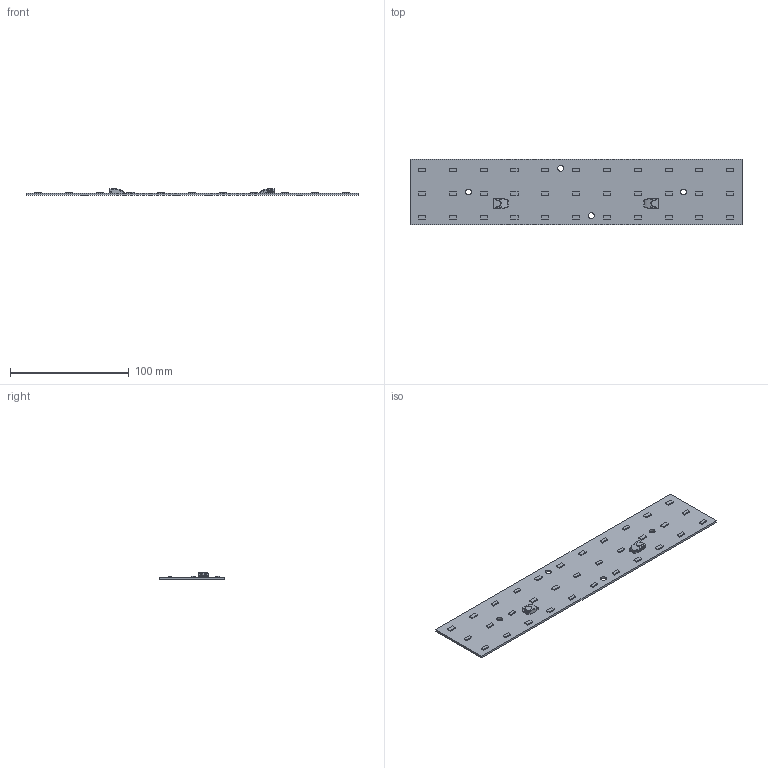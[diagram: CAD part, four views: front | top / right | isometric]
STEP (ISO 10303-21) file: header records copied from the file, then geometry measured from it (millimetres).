
FILE_DESCRIPTION(('ML33R7FL'),'2;1');
FILE_NAME('Z:\Mixdeal\Catalogo\Modelos 3D\STEP\ML33R7FL.stp','2015-06-26T15:24:43',('Nicolas Kretzig'),('MIXDEAL SA'),'Autodesk Inventor 2011','Autodesk Inventor 2011','');
FILE_SCHEMA(('AUTOMOTIVE_DESIGN { 1 0 10303 214 1 1 1 1 }'));
Length unit declared in the file: millimetre
Products named in the file (3): Placa ML33R7FL; ML33R7FL; 46-102-1001
Assembly tree (3 placements, depth 2):
  Placa ML33R7FL
    ML33R7FL
    46-102-1001  x2
Bounding box: 280 x 55 x 5.7 mm (x, y, z)
Volume: 27967.3 mm3; surface area: 33222.1 mm2
Topology: 3 solids, 3 shells, 895 faces, 2276 edges, 1512 vertices
Faces by surface type: plane 651, bspline 142, cylinder 92, torus 8, cone 2
Full cylindrical faces by diameter (mm): 0.6 x4, 5 x4
Entity records: 19728 total; most frequent: CARTESIAN_POINT 6637, ORIENTED_EDGE 2676, DIRECTION 2246, EDGE_CURVE 1338, VECTOR 1072, LINE 1072, VERTEX_POINT 892, EDGE_LOOP 628
